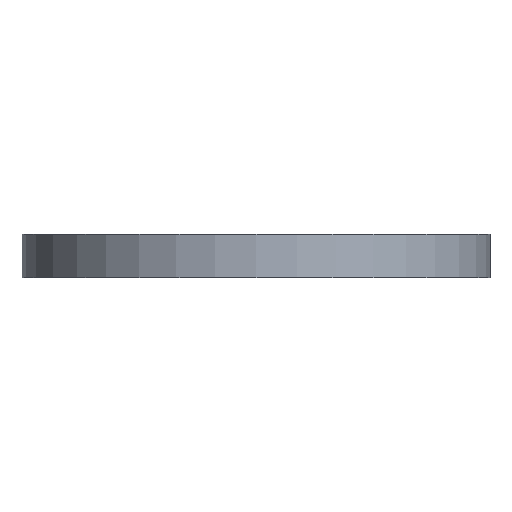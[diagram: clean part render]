
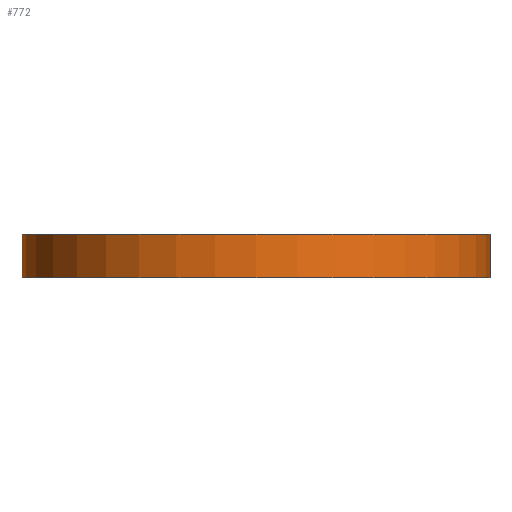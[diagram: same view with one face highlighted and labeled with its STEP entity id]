
A CAD part, front view. The second image highlights one B-rep face of the part: STEP entity #772.
In plain terms, the highlighted cylindrical face has radius 48 mm (diameter 96 mm), a full revolution.
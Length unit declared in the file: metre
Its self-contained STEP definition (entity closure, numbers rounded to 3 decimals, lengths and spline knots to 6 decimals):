
#215=ORIENTED_EDGE('',*,*,#403,.F.);
#216=ORIENTED_EDGE('',*,*,#404,.T.);
#403=EDGE_CURVE('',#485,#485,#545,.T.);
#404=EDGE_CURVE('',#486,#486,#546,.T.);
#485=VERTEX_POINT('',#1340);
#486=VERTEX_POINT('',#1342);
#545=CIRCLE('',#873,0.048);
#546=CIRCLE('',#874,0.048);
#592=EDGE_LOOP('',(#215));
#593=EDGE_LOOP('',(#216));
#666=FACE_BOUND('',#592,.T.);
#667=FACE_BOUND('',#593,.T.);
#735=CYLINDRICAL_SURFACE('',#872,0.048);
#772=ADVANCED_FACE('',(#666,#667),#735,.T.);
#872=AXIS2_PLACEMENT_3D('',#1338,#1092,#1093);
#873=AXIS2_PLACEMENT_3D('',#1339,#1094,#1095);
#874=AXIS2_PLACEMENT_3D('',#1341,#1096,#1097);
#1092=DIRECTION('',(0.,0.,-1.));
#1093=DIRECTION('',(-1.,0.,0.));
#1094=DIRECTION('',(0.,0.,1.));
#1095=DIRECTION('',(1.,0.,0.));
#1096=DIRECTION('',(0.,0.,1.));
#1097=DIRECTION('',(1.,0.,0.));
#1338=CARTESIAN_POINT('',(0.,0.,0.009));
#1339=CARTESIAN_POINT('',(0.,0.,0.009));
#1340=CARTESIAN_POINT('',(0.048,0.,0.009));
#1341=CARTESIAN_POINT('',(0.,0.,0.));
#1342=CARTESIAN_POINT('',(0.048,0.,0.));
